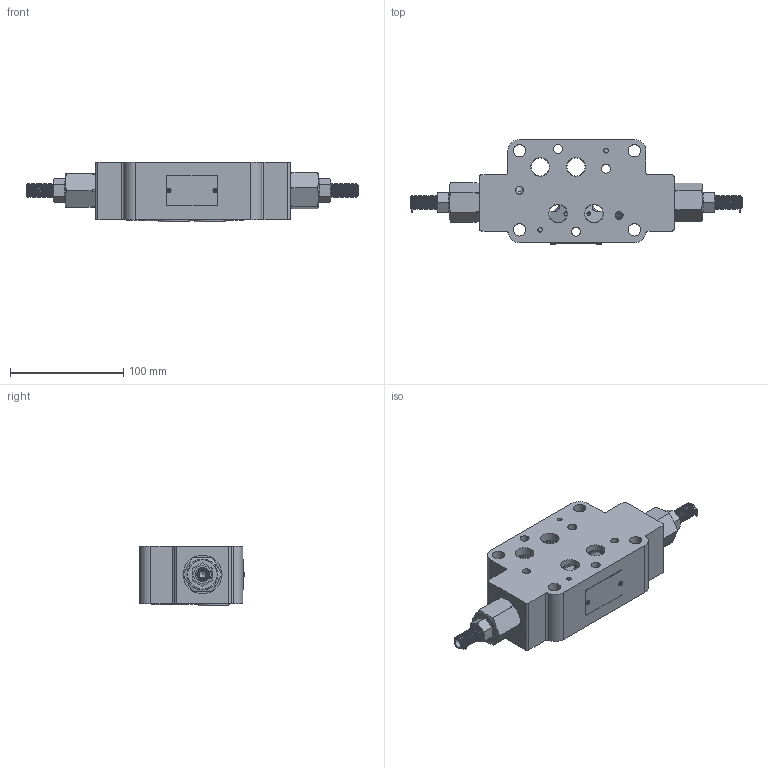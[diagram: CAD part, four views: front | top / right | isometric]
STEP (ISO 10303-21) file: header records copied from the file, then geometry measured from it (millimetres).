
FILE_DESCRIPTION(/* description */ (''),/* implementation_level */ '2;1');
FILE_NAME(/* name */ 'Z2FS6A-3XJ S(2).stp',/* time_stamp */ '2023-09-02T13:17:49+08:00',/* author */ (''),/* organization */ (''),/* preprocessor_version */ 'ST-DEVELOPER v16.7',/* originating_system */ 'SIEMENS PLM Software NX 12.0',/* authorisation */ '');
FILE_SCHEMA (('AUTOMOTIVE_DESIGN { 1 0 10303 214 3 1 1 1 }'));
Products named in the file (1): Z2FS6A-3XJ S(2)
Bounding box: 293.67 x 92.89 x 52.62 mm (x, y, z)
Volume: 612163.1 mm3; surface area: 139204.1 mm2
Topology: 26 solids, 26 shells, 794 faces, 2032 edges, 1311 vertices
Faces by surface type: cylinder 268, plane 259, bspline 136, cone 71, torus 44, extrusion 16
Full cylindrical faces by diameter (mm): 1.5 x6, 1.8 x2, 2 x2, 2.5 x2, 3 x4, 4 x4, 6 x2, 7 x5, 7.5 x2, 8 x6, 9.6 x2, 10 x2, 10.2 x2, 11 x4, 13.4 x2, 13.7 x3, 14 x4, 14.2 x2, 14.5 x2, 15.3 x2, 16 x2, 16.5 x6, 18 x1, 18.2 x2, 19.102 x2, 22 x1, 23 x3, 23.1 x2, 25.64 x2, 26.4 x2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
Entity records: 169990 total; most frequent: CARTESIAN_POINT 152870, ORIENTED_EDGE 3612, DIRECTION 2936, EDGE_CURVE 1806, VERTEX_POINT 1275, AXIS2_PLACEMENT_3D 1138, EDGE_LOOP 1040, ADVANCED_FACE 791
